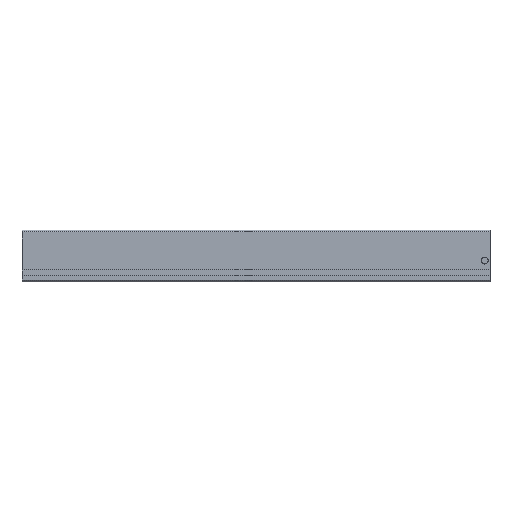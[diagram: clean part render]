
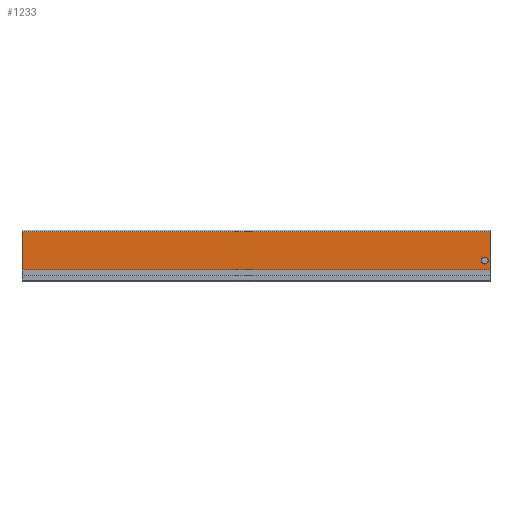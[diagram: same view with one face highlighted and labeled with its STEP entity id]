
A CAD part, top view. The second image highlights one B-rep face of the part: STEP entity #1233.
In plain terms, the highlighted planar face has unit normal (0, 0, 1).
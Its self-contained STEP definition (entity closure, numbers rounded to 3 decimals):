
#3 = VECTOR ( 'NONE', #1835, 1000. ) ;
#17 = EDGE_CURVE ( 'NONE', #1150, #438, #760, .T. ) ;
#57 = FACE_BOUND ( 'NONE', #436, .T. ) ;
#65 = CARTESIAN_POINT ( 'NONE',  ( 250., 26.7, 0. ) ) ;
#138 = DIRECTION ( 'NONE',  ( 0., 0., 1. ) ) ;
#140 = VECTOR ( 'NONE', #1414, 1000. ) ;
#142 = VERTEX_POINT ( 'NONE', #2052 ) ;
#218 = DIRECTION ( 'NONE',  ( 0., -1., 0. ) ) ;
#223 = EDGE_CURVE ( 'NONE', #142, #1231, #805, .T. ) ;
#241 = DIRECTION ( 'NONE',  ( -1., 0., 0. ) ) ;
#256 = VERTEX_POINT ( 'NONE', #349 ) ;
#320 = ORIENTED_EDGE ( 'NONE', *, *, #769, .F. ) ;
#349 = CARTESIAN_POINT ( 'NONE',  ( 249., 11.392, 0. ) ) ;
#367 = ORIENTED_EDGE ( 'NONE', *, *, #1398, .F. ) ;
#412 = CARTESIAN_POINT ( 'NONE',  ( 250., 26.7, 0. ) ) ;
#436 = EDGE_LOOP ( 'NONE', ( #320, #367 ) ) ;
#438 = VERTEX_POINT ( 'NONE', #839 ) ;
#452 = EDGE_CURVE ( 'NONE', #438, #142, #1016, .T. ) ;
#547 = CARTESIAN_POINT ( 'NONE',  ( 245.3, 11.392, 0. ) ) ;
#548 = VECTOR ( 'NONE', #664, 1000. ) ;
#619 = DIRECTION ( 'NONE',  ( 0., 0., -1. ) ) ;
#650 = DIRECTION ( 'NONE',  ( -1., 0., 0. ) ) ;
#664 = DIRECTION ( 'NONE',  ( 0., -1., 0. ) ) ;
#708 = LINE ( 'NONE', #1471, #548 ) ;
#760 = LINE ( 'NONE', #412, #3 ) ;
#769 = EDGE_CURVE ( 'NONE', #1077, #256, #903, .T. ) ;
#805 = LINE ( 'NONE', #1250, #140 ) ;
#839 = CARTESIAN_POINT ( 'NONE',  ( 0., 26.7, 0. ) ) ;
#855 = AXIS2_PLACEMENT_3D ( 'NONE', #1590, #138, #650 ) ;
#903 = CIRCLE ( 'NONE', #1746, 1.85 ) ;
#922 = CIRCLE ( 'NONE', #855, 1.85 ) ;
#965 = EDGE_CURVE ( 'NONE', #1150, #1231, #708, .T. ) ;
#1016 = LINE ( 'NONE', #1780, #1985 ) ;
#1053 = ORIENTED_EDGE ( 'NONE', *, *, #965, .F. ) ;
#1077 = VERTEX_POINT ( 'NONE', #547 ) ;
#1079 = EDGE_LOOP ( 'NONE', ( #1053, #1663, #1506, #1667 ) ) ;
#1089 = CARTESIAN_POINT ( 'NONE',  ( 247.15, 11.392, 0. ) ) ;
#1150 = VERTEX_POINT ( 'NONE', #65 ) ;
#1195 = CARTESIAN_POINT ( 'NONE',  ( 250., 0., 0. ) ) ;
#1231 = VERTEX_POINT ( 'NONE', #1246 ) ;
#1233 = ADVANCED_FACE ( 'NONE', ( #57, #1337 ), #1828, .F. ) ;
#1246 = CARTESIAN_POINT ( 'NONE',  ( 250., 6.6, 0. ) ) ;
#1250 = CARTESIAN_POINT ( 'NONE',  ( 0., 6.6, 0. ) ) ;
#1337 = FACE_OUTER_BOUND ( 'NONE', #1079, .T. ) ;
#1398 = EDGE_CURVE ( 'NONE', #256, #1077, #922, .T. ) ;
#1414 = DIRECTION ( 'NONE',  ( 1., 0., 0. ) ) ;
#1471 = CARTESIAN_POINT ( 'NONE',  ( 250., 0., 0. ) ) ;
#1506 = ORIENTED_EDGE ( 'NONE', *, *, #452, .T. ) ;
#1590 = CARTESIAN_POINT ( 'NONE',  ( 247.15, 11.392, 0. ) ) ;
#1663 = ORIENTED_EDGE ( 'NONE', *, *, #17, .T. ) ;
#1667 = ORIENTED_EDGE ( 'NONE', *, *, #223, .T. ) ;
#1723 = DIRECTION ( 'NONE',  ( 0., 0., 1. ) ) ;
#1746 = AXIS2_PLACEMENT_3D ( 'NONE', #1089, #1723, #1890 ) ;
#1780 = CARTESIAN_POINT ( 'NONE',  ( 0., 0., 0. ) ) ;
#1828 = PLANE ( 'NONE',  #1947 ) ;
#1835 = DIRECTION ( 'NONE',  ( -1., 0., 0. ) ) ;
#1890 = DIRECTION ( 'NONE',  ( -1., 0., 0. ) ) ;
#1947 = AXIS2_PLACEMENT_3D ( 'NONE', #1195, #619, #241 ) ;
#1985 = VECTOR ( 'NONE', #218, 1000. ) ;
#2052 = CARTESIAN_POINT ( 'NONE',  ( 0., 6.6, 0. ) ) ;
